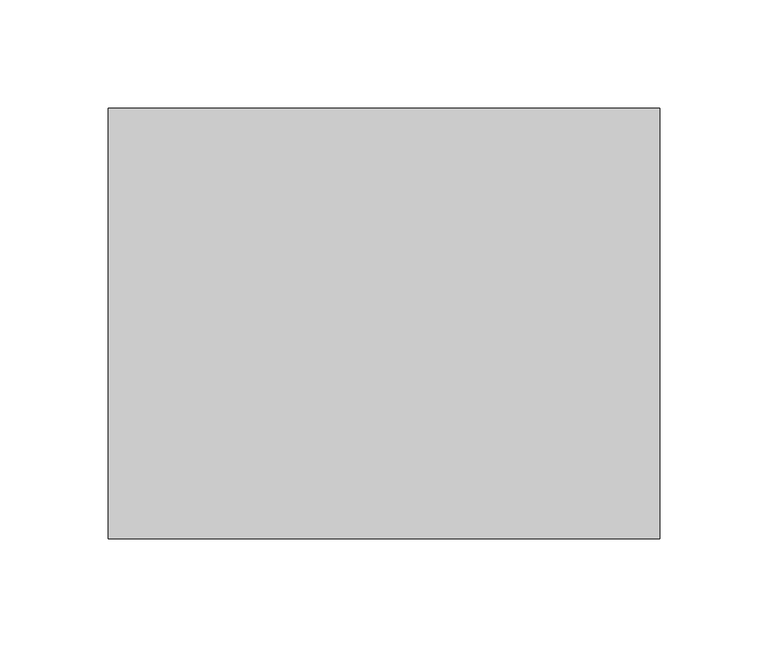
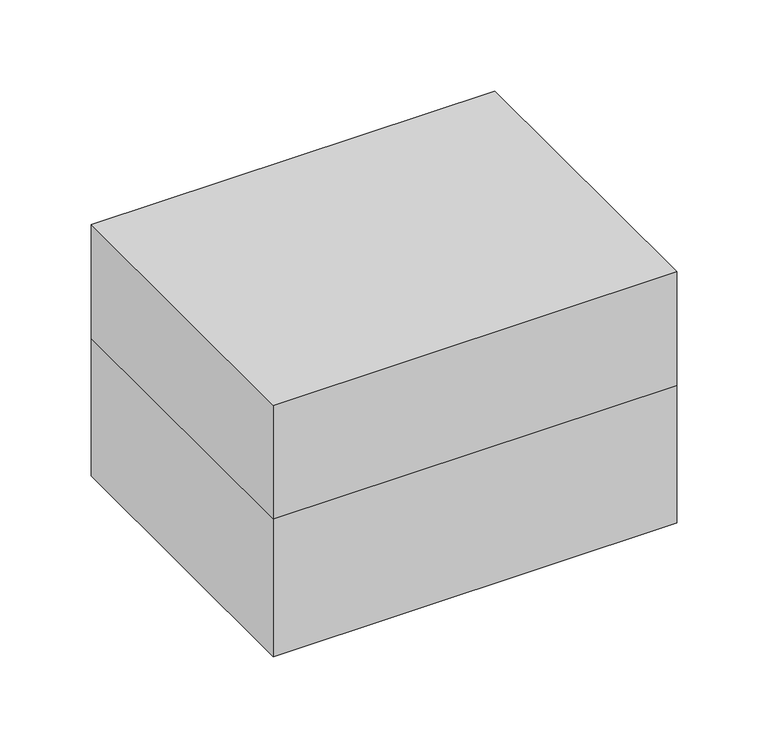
"""IFC4 building model written with IfcOpenShell, lengths in millimetres: cable carrier fitting geometry."""

from ifc_helpers import new_model, si_unit, origin, place, context, project, spatial, faceted_brep, source, transform, mapped, element, save


def cable_carrier_fitting_7f8c6c91(model_context):
    return source(origin(), model_context, "Body", "Brep", [
        faceted_brep([(127.5, 99.5, 168.0), (-127.5, 99.5, 168.0), (-127.5, -99.5, 168.0), (127.5, -99.5, 168.0), (-125.5, -97.5, 166.0), (-125.5, 97.5, 166.0), (125.5, 97.5, 166.0), (125.5, -97.5, 166.0), (127.5, 99.5, 92.0), (127.5, -99.5, 92.0), (-127.5, -99.5, 92.0), (-127.5, 99.5, 92.0), (-125.5, -97.5, 92.0), (125.5, -97.5, 92.0), (125.5, 97.5, 92.0), (-125.5, 97.5, 92.0)], [[[0, 1, 2, 3]], [[4, 5, 6, 7]], [[8, 9, 10, 11], [12, 13, 14, 15]], [[1, 0, 8, 11]], [[2, 1, 11, 10]], [[3, 2, 10, 9]], [[0, 3, 9, 8]], [[12, 15, 5, 4]], [[15, 14, 6, 5]], [[14, 13, 7, 6]], [[13, 12, 4, 7]]]),
        faceted_brep([(-125.5, -97.5, 2.0), (125.5, -97.5, 2.0), (125.5, 97.5, 2.0), (-125.5, 97.5, 2.0), (127.5, 99.5, 0.0), (127.5, -99.5, 0.0), (-127.5, -99.5, 0.0), (-127.5, 99.5, 0.0), (127.5, 99.5, 92.0), (-127.5, 99.5, 92.0), (-127.5, -99.5, 92.0), (127.5, -99.5, 92.0), (125.5, -97.5, 92.0), (-125.5, -97.5, 92.0), (-125.5, 97.5, 92.0), (125.5, 97.5, 92.0)], [[[0, 1, 2, 3]], [[4, 5, 6, 7]], [[8, 9, 10, 11], [12, 13, 14, 15]], [[9, 8, 4, 7]], [[10, 9, 7, 6]], [[11, 10, 6, 5]], [[8, 11, 5, 4]], [[13, 12, 1, 0]], [[14, 13, 0, 3]], [[15, 14, 3, 2]], [[12, 15, 2, 1]]]),
    ])


if __name__ == "__main__":
    model = new_model("IFC4")
    model_context = context("Model", 3, world=origin())
    ifc_project = project(units=[si_unit("LENGTHUNIT", "METRE", prefix="MILLI")], contexts=[model_context])
    site = spatial("IfcSite", under=ifc_project)
    building = spatial("IfcBuilding", under=site)
    placement = place(None, origin())
    cable_carrier_fitting_shape = cable_carrier_fitting_7f8c6c91(model_context)
    element("IfcCableCarrierFitting", 1, at=placement, inside=building, context=model_context, shape_type="MappedRepresentation", body=[
        mapped(cable_carrier_fitting_shape, transform((0.0, 0.0, 0.0), x_axis=(1.0, 0.0, 0.0), y_axis=(0.0, 1.0, 0.0), z_axis=(0.0, 0.0, 1.0))),
    ])
    save(model, "model.ifc")
